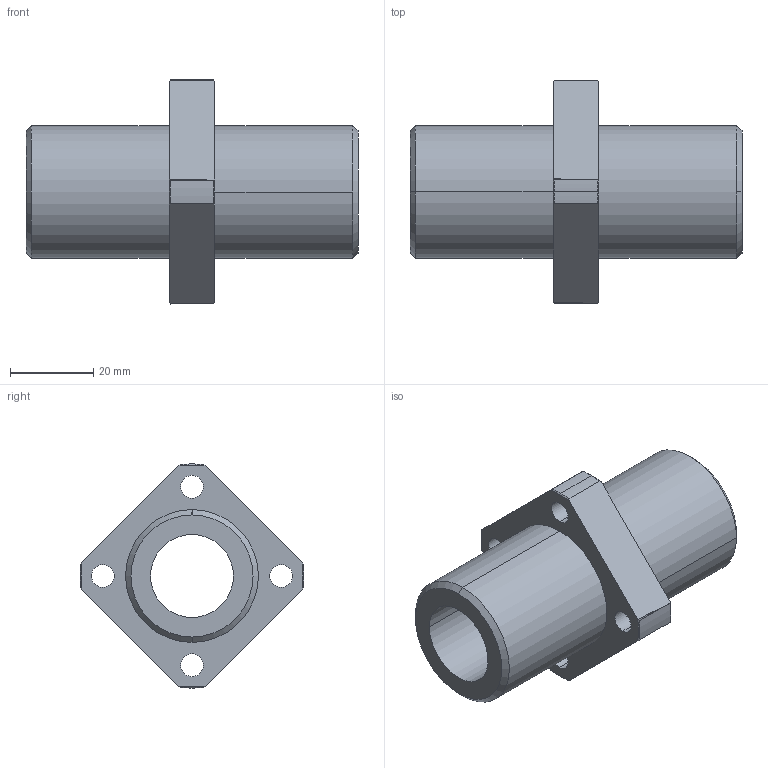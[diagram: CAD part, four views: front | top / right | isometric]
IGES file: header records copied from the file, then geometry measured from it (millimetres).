
Start section: 3D InterOp IGES (Version 21 0 1), Spatial Corp. Copyright (c) 1999-2007.
Global section: file name: CFPJ20.igs; native system: Spatial Corp.; preprocessor: 3D InterOp GENERIC/IGES 3.0; author: Noname; organization: Noname; date: 20220324.130052; units: millimetre
Bounding box: 80 x 53.97 x 54 mm (x, y, z)
Surface area: 17177.6 mm2 (no closed solid volume)
Topology: 0 solids, 0 shells, 53 faces, 264 edges, 264 vertices
Faces by surface type: revolution 41, extrusion 12
